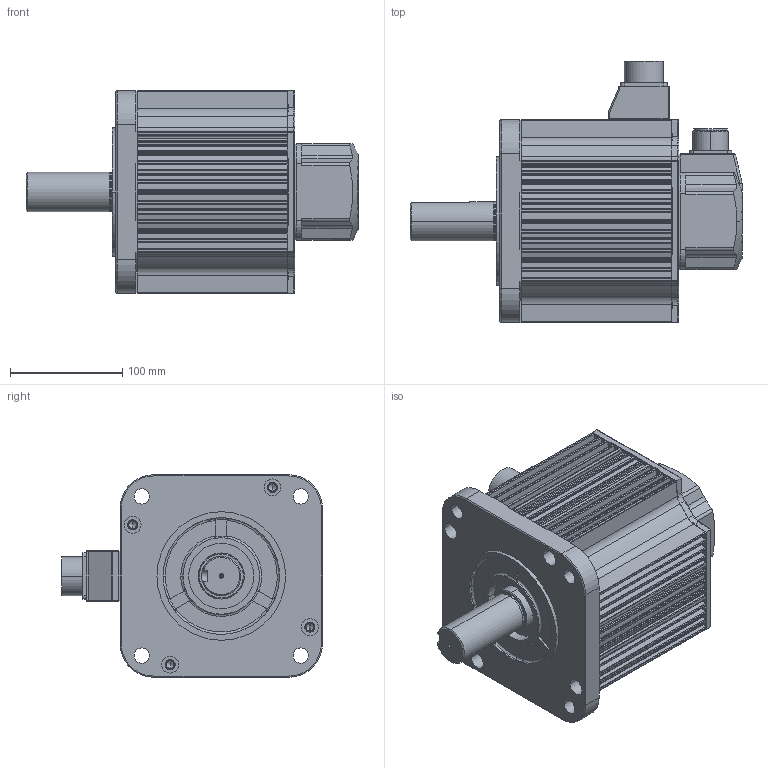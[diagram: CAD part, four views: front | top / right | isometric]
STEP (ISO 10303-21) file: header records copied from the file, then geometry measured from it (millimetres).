
FILE_DESCRIPTION (( 'STEP AP203' ), '1' );
FILE_NAME ('KANH-30B(NB).STEP', '2026-09-12T02:57:21', ( '' ), ( '' ), 'SwSTEP 2.0', 'SolidWorks 2023', '' );
FILE_SCHEMA (( 'CONFIG_CONTROL_DESIGN' ));
Length unit declared in the file: millimetre
Products named in the file (11): Ø35-KEY10X50; MS3102A 20-29P; □180-136.5mm(3.0kW,NB,MS22); 10050907 RUBBER SEAL_MS22 or MS24; □180 FLANGE; KANH-30B(NB); 10050908 CONNECTOR BOX_MS22 or MS24; 1005052200 ENCODER COVER; 10050523 GASKET_돌출형; □180 BRACKET_BR; MS3102A 22_표준
Assembly tree (10 placements, depth 2):
  KANH-30B(NB)
    Ø35-KEY10X50
    □180 FLANGE
    □180-136.5mm(3.0kW,NB,MS22)
    □180 BRACKET_BR
    1005052200 ENCODER COVER
    10050523 GASKET_돌출형
    MS3102A 20-29P
    10050907 RUBBER SEAL_MS22 or MS24
    10050908 CONNECTOR BOX_MS22 or MS24
    MS3102A 22_표준
Bounding box: 295.2 x 232.05 x 180 mm (x, y, z)
Volume: 1456173.8 mm3; surface area: 514157.3 mm2
Topology: 10 solids, 10 shells, 1764 faces, 4830 edges, 3140 vertices
Faces by surface type: cylinder 912, plane 605, torus 122, cone 88, bspline 35, sphere 2
Entity records: 60348 total; most frequent: CARTESIAN_POINT 13359, DIRECTION 10018, ORIENTED_EDGE 9588, EDGE_CURVE 4794, AXIS2_PLACEMENT_3D 3855, VERTEX_POINT 3140, VECTOR 2308, LINE 2308
